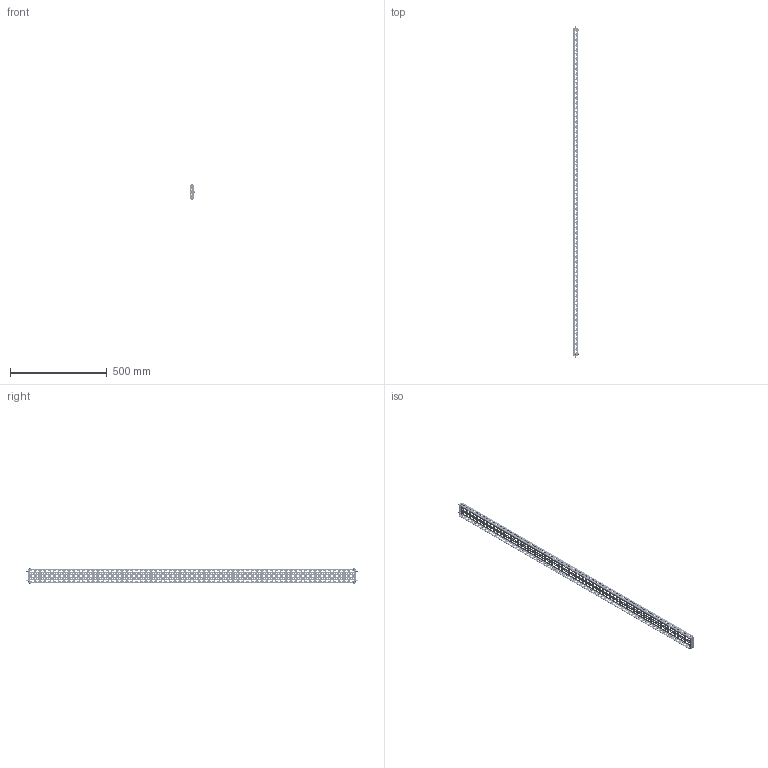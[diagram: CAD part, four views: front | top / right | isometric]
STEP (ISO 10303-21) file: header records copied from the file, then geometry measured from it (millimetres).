
FILE_DESCRIPTION(('Open CASCADE Model'),'2;1');
FILE_NAME('Open CASCADE Shape Model','2025-01-16T16:23:36',('Author'),( 'Open CASCADE'),'Open CASCADE STEP processor 7.8','Open CASCADE 7.8' ,'Unknown');
FILE_SCHEMA(('AUTOMOTIVE_DESIGN { 1 0 10303 214 1 1 1 1 }'));
Products named in the file (1): Solid1
Bounding box: 28.56 x 1720 x 82.12 mm (x, y, z)
Volume: 294619.7 mm3; surface area: 429043.8 mm2
Topology: 13 solids, 13 shells, 6576 faces, 19782 edges, 13222 vertices
Faces by surface type: cylinder 4150, plane 2326, torus 40, cone 20, bspline 20, sphere 20
Full cylindrical faces by diameter (mm): 4.2 x596, 4.5 x14, 5 x10, 5.5 x8, 6 x14
Entity records: 233421 total; most frequent: CARTESIAN_POINT 44442, DIRECTION 40902, ORIENTED_EDGE 39524, EDGE_CURVE 19762, AXIS2_PLACEMENT_3D 15325, VERTEX_POINT 13222, LINE 10252, VECTOR 10252
